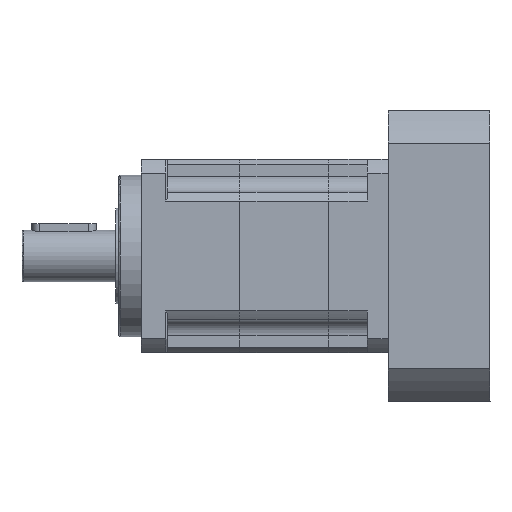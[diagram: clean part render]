
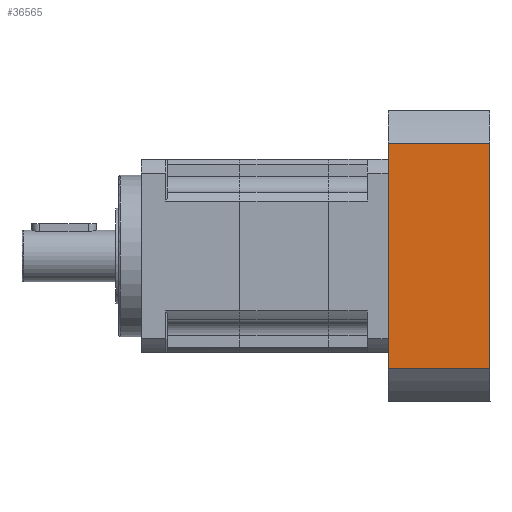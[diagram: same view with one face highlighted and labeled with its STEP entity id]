
A CAD part, left-side view. The second image highlights one B-rep face of the part: STEP entity #36565.
In plain terms, the highlighted planar face has unit normal (-1, 0, 0).
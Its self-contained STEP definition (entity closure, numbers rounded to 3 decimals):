
#898 = EDGE_CURVE ( 'NONE', #36203, #15132, #9501, .T. ) ;
#1932 = VECTOR ( 'NONE', #5684, 1000. ) ;
#2434 = LINE ( 'NONE', #16853, #16664 ) ;
#5024 = ORIENTED_EDGE ( 'NONE', *, *, #36271, .T. ) ;
#5684 = DIRECTION ( 'NONE',  ( 0., -1., 0. ) ) ;
#8073 = CARTESIAN_POINT ( 'NONE',  ( -45., -34.986, 0. ) ) ;
#9369 = EDGE_CURVE ( 'NONE', #32106, #20170, #17045, .T. ) ;
#9501 = LINE ( 'NONE', #19848, #1932 ) ;
#9894 = CARTESIAN_POINT ( 'NONE',  ( -45., 45., 162.833 ) ) ;
#12746 = PLANE ( 'NONE',  #25847 ) ;
#13410 = CARTESIAN_POINT ( 'NONE',  ( -45., 34.986, 0. ) ) ;
#15132 = VERTEX_POINT ( 'NONE', #8073 ) ;
#16300 = CARTESIAN_POINT ( 'NONE',  ( -45., 45., -31.5 ) ) ;
#16664 = VECTOR ( 'NONE', #36807, 1000. ) ;
#16853 = CARTESIAN_POINT ( 'NONE',  ( -45., -34.986, 0. ) ) ;
#17045 = LINE ( 'NONE', #16300, #24665 ) ;
#18521 = VECTOR ( 'NONE', #36554, 1000. ) ;
#19173 = DIRECTION ( 'NONE',  ( 0., -1., 0. ) ) ;
#19848 = CARTESIAN_POINT ( 'NONE',  ( -45., -21., 0. ) ) ;
#20170 = VERTEX_POINT ( 'NONE', #24186 ) ;
#21788 = ORIENTED_EDGE ( 'NONE', *, *, #9369, .T. ) ;
#22712 = ORIENTED_EDGE ( 'NONE', *, *, #24932, .F. ) ;
#22916 = ORIENTED_EDGE ( 'NONE', *, *, #898, .F. ) ;
#24186 = CARTESIAN_POINT ( 'NONE',  ( -45., -34.986, -31.5 ) ) ;
#24385 = EDGE_LOOP ( 'NONE', ( #21788, #22712, #22916, #5024 ) ) ;
#24665 = VECTOR ( 'NONE', #19173, 1000. ) ;
#24932 = EDGE_CURVE ( 'NONE', #15132, #20170, #2434, .T. ) ;
#25096 = CARTESIAN_POINT ( 'NONE',  ( -45., 34.986, 162.833 ) ) ;
#25847 = AXIS2_PLACEMENT_3D ( 'NONE', #9894, #32558, #32693 ) ;
#27013 = LINE ( 'NONE', #25096, #18521 ) ;
#31564 = CARTESIAN_POINT ( 'NONE',  ( -45., 34.986, -31.5 ) ) ;
#32106 = VERTEX_POINT ( 'NONE', #31564 ) ;
#32558 = DIRECTION ( 'NONE',  ( -1., 0., 0. ) ) ;
#32693 = DIRECTION ( 'NONE',  ( 0., -1., 0. ) ) ;
#35013 = FACE_OUTER_BOUND ( 'NONE', #24385, .T. ) ;
#36203 = VERTEX_POINT ( 'NONE', #13410 ) ;
#36271 = EDGE_CURVE ( 'NONE', #36203, #32106, #27013, .T. ) ;
#36554 = DIRECTION ( 'NONE',  ( 0., 0., -1. ) ) ;
#36565 = ADVANCED_FACE ( 'NONE', ( #35013 ), #12746, .T. ) ;
#36807 = DIRECTION ( 'NONE',  ( 0., 0., -1. ) ) ;
